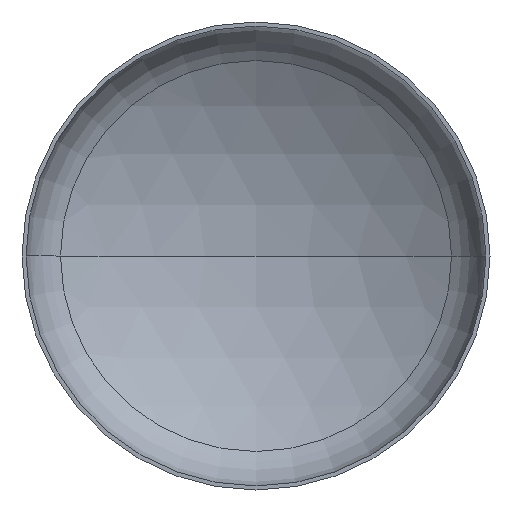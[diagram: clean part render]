
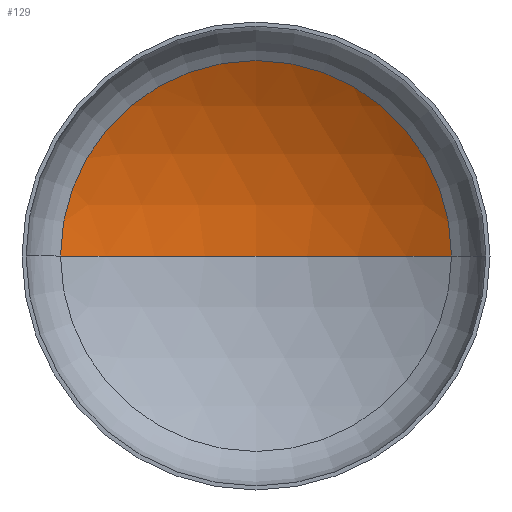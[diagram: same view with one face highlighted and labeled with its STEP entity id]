
A CAD part, front view. The second image highlights one B-rep face of the part: STEP entity #129.
In plain terms, the highlighted spherical face has radius 4800 mm.
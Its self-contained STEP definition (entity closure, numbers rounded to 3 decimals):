
#13 = DIRECTION ( 'NONE',  ( 1., 0., 0. ) ) ;
#44 = VERTEX_POINT ( 'NONE', #334 ) ;
#48 = ORIENTED_EDGE ( 'NONE', *, *, #153, .T. ) ;
#60 = VERTEX_POINT ( 'NONE', #149 ) ;
#75 = VERTEX_POINT ( 'NONE', #142 ) ;
#85 = ORIENTED_EDGE ( 'NONE', *, *, #204, .F. ) ;
#87 = ORIENTED_EDGE ( 'NONE', *, *, #190, .T. ) ;
#118 = CARTESIAN_POINT ( 'NONE',  ( 0., -3185.011, 0. ) ) ;
#125 = DIRECTION ( 'NONE',  ( 0., 0., -1. ) ) ;
#129 = ADVANCED_FACE ( 'NONE', ( #361 ), #281, .F. ) ;
#142 = CARTESIAN_POINT ( 'NONE',  ( -2505.91, 908.938, 0. ) ) ;
#144 = AXIS2_PLACEMENT_3D ( 'NONE', #118, #125, #303 ) ;
#149 = CARTESIAN_POINT ( 'NONE',  ( 2505.91, 908.938, 0. ) ) ;
#152 = CARTESIAN_POINT ( 'NONE',  ( 0., 908.938, 0. ) ) ;
#153 = EDGE_CURVE ( 'NONE', #60, #75, #352, .T. ) ;
#166 = AXIS2_PLACEMENT_3D ( 'NONE', #152, #228, #385 ) ;
#190 = EDGE_CURVE ( 'NONE', #44, #60, #335, .T. ) ;
#204 = EDGE_CURVE ( 'NONE', #44, #75, #345, .T. ) ;
#207 = DIRECTION ( 'NONE',  ( 0., 0., -1. ) ) ;
#228 = DIRECTION ( 'NONE',  ( 0., -1., 0. ) ) ;
#232 = AXIS2_PLACEMENT_3D ( 'NONE', #388, #233, #13 ) ;
#233 = DIRECTION ( 'NONE',  ( 0., 0., 1. ) ) ;
#250 = AXIS2_PLACEMENT_3D ( 'NONE', #368, #207, #315 ) ;
#281 = SPHERICAL_SURFACE ( 'NONE', #144, 4800. ) ;
#301 = EDGE_LOOP ( 'NONE', ( #85, #87, #48 ) ) ;
#303 = DIRECTION ( 'NONE',  ( -1., 0., 0. ) ) ;
#315 = DIRECTION ( 'NONE',  ( -1., 0., 0. ) ) ;
#334 = CARTESIAN_POINT ( 'NONE',  ( 0., 1614.989, 0. ) ) ;
#335 = CIRCLE ( 'NONE', #250, 4800. ) ;
#345 = CIRCLE ( 'NONE', #232, 4800. ) ;
#352 = CIRCLE ( 'NONE', #166, 2505.91 ) ;
#361 = FACE_OUTER_BOUND ( 'NONE', #301, .T. ) ;
#368 = CARTESIAN_POINT ( 'NONE',  ( 0., -3185.011, 0. ) ) ;
#385 = DIRECTION ( 'NONE',  ( 1., 0., 0. ) ) ;
#388 = CARTESIAN_POINT ( 'NONE',  ( 0., -3185.011, 0. ) ) ;
